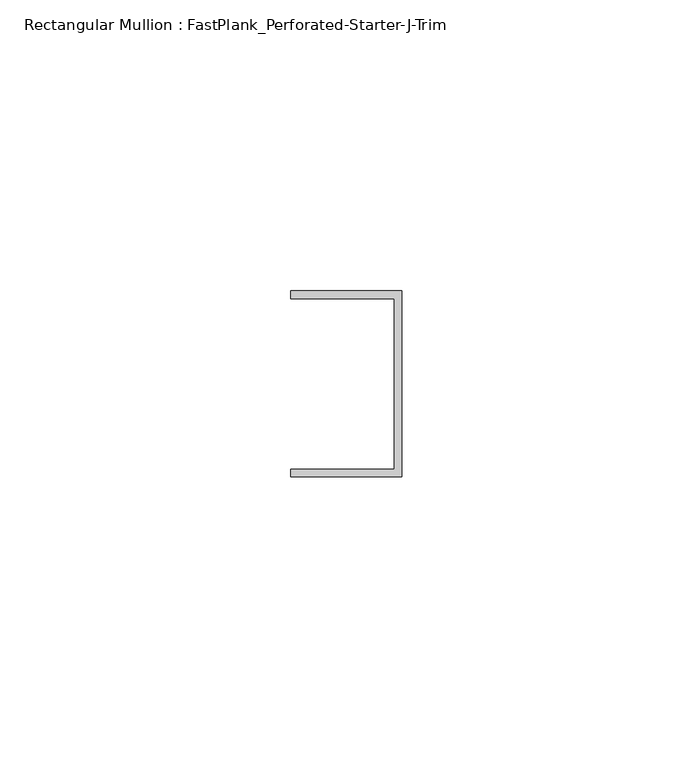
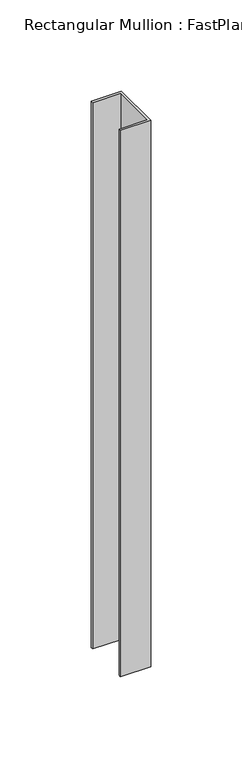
"""IFC4 building model written with IfcOpenShell, lengths in millimetres: member geometry, Rectangular Mullion : FastPlank_Perforated-Starter-J-Trim."""

import ifcopenshell
import ifcopenshell.guid

model = None  # the IFC model being written
_history = None  # IfcOwnerHistory: only IFC2X3 demands one
_inside = {}  # id of a spatial element -> (the spatial element, [elements in it])
_under = {}  # id of a project, library or spatial element -> (it, [spatial elements below it])
_declared = {}  # id of a project -> (the project, [libraries it declares])
_typed = {}  # id of a type object -> (the type object, [elements of that type])
_made_of = {}  # id of a material, layer set ... -> (it, [elements and type objects made of it])


def new_model(schema):
    """Start an empty IFC model of exactly this schema.

    Asked for "IFC4X3", IfcOpenShell would pick the latest addendum, in which some entities
    have other attributes; the version numbers below select the first issue.
    IFC2X3 requires an IfcOwnerHistory on every rooted entity: one is made here for all.
    """
    global model, _history
    if schema == "IFC4X3":
        model = ifcopenshell.file(schema_version=(4, 3, 0, 0))
    else:
        model = ifcopenshell.file(schema=schema)
    _inside.clear()
    _under.clear()
    _declared.clear()
    _typed.clear()
    _made_of.clear()
    _history = None
    if model.schema == "IFC2X3":
        org = make("IfcOrganization", Name="unknown")
        user = make(
            "IfcPersonAndOrganization",
            ThePerson=make("IfcPerson", FamilyName="unknown"),
            TheOrganization=org,
        )
        app = make(
            "IfcApplication",
            ApplicationDeveloper=org,
            Version="unknown",
            ApplicationFullName="unknown",
            ApplicationIdentifier="unknown",
        )
        _history = make(
            "IfcOwnerHistory",
            OwningUser=user,
            OwningApplication=app,
            ChangeAction="ADDED",
            CreationDate=0,
        )
    return model


def make(cls, **values):
    """One entity of the class cls with the attributes given. An attribute that is None is left unset."""
    return model.create_entity(
        cls, **{name: value for name, value in values.items() if value is not None}
    )


def rooted(cls, **values):
    """An entity with a GlobalId (a new one), such as an element, a storey or a relation."""
    return make(cls, GlobalId=ifcopenshell.guid.new(), OwnerHistory=_history, **values)


def si_unit(unit_type, name, prefix=None):
    """IfcSIUnit, for example si_unit("LENGTHUNIT", "METRE", prefix="MILLI")."""
    return make("IfcSIUnit", UnitType=unit_type, Prefix=prefix, Name=name)


def assignment(units):
    """IfcUnitAssignment: the units of a project."""
    return None if units is None else make("IfcUnitAssignment", Units=units)


def point(xyz):
    """IfcCartesianPoint."""
    return None if xyz is None else make("IfcCartesianPoint", Coordinates=xyz)


def direction(xyz):
    """IfcDirection."""
    return None if xyz is None else make("IfcDirection", DirectionRatios=xyz)


def frame(location, z_axis=None, x_axis=None):
    """IfcAxis2Placement3D, a coordinate frame: its origin and axes. An axis left out is left unset."""
    return make(
        "IfcAxis2Placement3D",
        Location=point(location),
        Axis=direction(z_axis),
        RefDirection=direction(x_axis),
    )


def origin():
    """The frame at (0, 0, 0) with its axes left unset."""
    return frame((0.0, 0.0, 0.0))


def place(relative_to, where):
    """IfcLocalPlacement: puts the frame where relative to a parent placement (None: the world)."""
    return make(
        "IfcLocalPlacement", PlacementRelTo=relative_to, RelativePlacement=where
    )


def context(
    kind, dimensions, precision=None, world=None, true_north=None, identifier=None
):
    """IfcGeometricRepresentationContext, for example the 3D "Model" context."""
    return make(
        "IfcGeometricRepresentationContext",
        ContextIdentifier=identifier,
        ContextType=kind,
        CoordinateSpaceDimension=dimensions,
        Precision=precision,
        WorldCoordinateSystem=world,
        TrueNorth=true_north,
    )


def project(units=None, contexts=None):
    """IfcProject with its units and contexts."""
    return rooted(
        "IfcProject",
        Name="project",
        RepresentationContexts=contexts,
        UnitsInContext=assignment(units),
    )


def spatial(cls, under=None, at=None, **own):
    """A site, building, storey or space (cls), placed at a placement, below another one or the project."""
    s = rooted(cls, ObjectPlacement=at, **own)
    if under is not None:
        _under.setdefault(under.id(), (under, []))[1].append(s)
    return s


def polyline(points):
    """IfcPolyline through the points."""
    return make("IfcPolyline", Points=[point(p) for p in points])


def outline(outer, holes=None, kind="AREA"):
    """IfcArbitraryClosedProfileDef: a profile drawn as a closed curve; with holes, ...WithVoids."""
    if holes is None:
        return make("IfcArbitraryClosedProfileDef", ProfileType=kind, OuterCurve=outer)
    return make(
        "IfcArbitraryProfileDefWithVoids",
        ProfileType=kind,
        OuterCurve=outer,
        InnerCurves=holes,
    )


def extrude(swept, where, along, depth):
    """IfcExtrudedAreaSolid: the profile swept, set in the frame where, extruded along a direction by depth."""
    return make(
        "IfcExtrudedAreaSolid",
        SweptArea=swept,
        Position=where,
        ExtrudedDirection=direction(along),
        Depth=depth,
    )


def shape(context_of_items, identifier, shape_type, items):
    """IfcShapeRepresentation: the items that make up one representation, for example the "Body"."""
    return make(
        "IfcShapeRepresentation",
        ContextOfItems=context_of_items,
        RepresentationIdentifier=identifier,
        RepresentationType=shape_type,
        Items=items,
    )


def source(mapping_origin, context_of_items, identifier, shape_type, items):
    """IfcRepresentationMap: a shape defined once, which mapped items show again and again."""
    return make(
        "IfcRepresentationMap",
        MappingOrigin=mapping_origin,
        MappedRepresentation=shape(context_of_items, identifier, shape_type, items),
    )


def transform(
    local_origin,
    x_axis=None,
    y_axis=None,
    z_axis=None,
    scale=None,
    scale2=None,
    scale3=None,
    uniform=True,
):
    """IfcCartesianTransformationOperator3D, or its non-uniform kind. x_axis, y_axis, z_axis: its Axis1, 2, 3."""
    if uniform:
        return make(
            "IfcCartesianTransformationOperator3D",
            Axis1=direction(x_axis),
            Axis2=direction(y_axis),
            LocalOrigin=point(local_origin),
            Scale=scale,
            Axis3=direction(z_axis),
        )
    return make(
        "IfcCartesianTransformationOperator3DnonUniform",
        Axis1=direction(x_axis),
        Axis2=direction(y_axis),
        LocalOrigin=point(local_origin),
        Scale=scale,
        Axis3=direction(z_axis),
        Scale2=scale2,
        Scale3=scale3,
    )


def mapped(mapping_source, mapping_target):
    """IfcMappedItem: shows the shape of a source again, moved by a transform."""
    return make(
        "IfcMappedItem", MappingSource=mapping_source, MappingTarget=mapping_target
    )


def made_of(thing, what):
    """Note that an element or type object is made of a material, layer set ...; save() writes the relation."""
    if what is not None:
        _made_of.setdefault(what.id(), (what, []))[1].append(thing)
    return thing


def element(
    cls,
    number,
    at=None,
    inside=None,
    cuts=None,
    type_object=None,
    material=None,
    context=None,
    identifier="Body",
    shape_type=None,
    held_by="IfcProductDefinitionShape",
    body=None,
    shapes=None,
    **own,
):
    """One element of the class cls, such as IfcWall. Its Tag is "e" and its number.

    at: its placement. inside: the storey or other place that contains it. cuts: it is an
    opening in that element (IfcRelVoidsElement). A single representation is given by context,
    identifier, shape_type and body (its items); several are given by shapes. held_by: the class
    of the entity that holds the representations. save() writes the other relations.
    """
    e = rooted(cls, Tag="e%d" % number, ObjectPlacement=at, **own)
    if body is not None:
        shapes = [shape(context, identifier, shape_type, body)]
    if shapes is not None:
        e.Representation = make(held_by, Representations=shapes)
    if inside is not None:
        _inside.setdefault(inside.id(), (inside, []))[1].append(e)
    if cuts is not None:
        rooted(
            "IfcRelVoidsElement", RelatingBuildingElement=cuts, RelatedOpeningElement=e
        )
    if type_object is not None:
        _typed.setdefault(type_object.id(), (type_object, []))[1].append(e)
    return made_of(e, material)


def aggregate(whole, parts):
    """IfcRelAggregates: a whole, such as a stair, and the parts it consists of."""
    return rooted("IfcRelAggregates", RelatingObject=whole, RelatedObjects=parts)


def save(model, path):
    """Write the relations noted so far, then the file.

    IfcRelAggregates (storeys below a building ...), IfcRelContainedInSpatialStructure (elements
    in a storey), IfcRelDefinesByType, IfcRelAssociatesMaterial and IfcRelDeclares: one each for
    every whole, place, type object, material and project.
    """
    for whole, parts in _under.values():
        aggregate(whole, parts)
    for where, things in _inside.values():
        rooted(
            "IfcRelContainedInSpatialStructure",
            RelatedElements=things,
            RelatingStructure=where,
        )
    for kind, things in _typed.values():
        rooted("IfcRelDefinesByType", RelatedObjects=things, RelatingType=kind)
    for what, things in _made_of.values():
        rooted("IfcRelAssociatesMaterial", RelatedObjects=things, RelatingMaterial=what)
    for by, libraries in _declared.values():
        rooted("IfcRelDeclares", RelatingContext=by, RelatedDefinitions=libraries)
    model.write(path)


def rectangular_mullion_fastplank_perforated_starter_j_trim_60d219b5(model_context):
    return source(origin(), model_context, "Body", "SweptSolid", [
        extrude(outline(polyline([(0.0, -10.2620691), (-19.05, -10.2620691), (-19.05, -8.9620717), (-1.3000189, -8.9620717), (-1.3000189, 20.3412717), (-19.05, 20.3412717), (-19.05, 21.6412691), (0.0, 21.6412691), (0.0, -10.2620691)])), frame((0.0, 0.0, -365.1156655), z_axis=(0.0, 0.0, 1.0), x_axis=(1.0, 0.0, 0.0)), (0.0, 0.0, 1.0), 365.1156655),
    ])


if __name__ == "__main__":
    model = new_model("IFC4")
    model_context = context("Model", 3, world=origin())
    ifc_project = project(units=[si_unit("LENGTHUNIT", "METRE", prefix="MILLI")], contexts=[model_context])
    site = spatial("IfcSite", under=ifc_project)
    building = spatial("IfcBuilding", under=site)
    placement = place(None, origin())
    rectangular_mullion_fastplank_perforated_starter_j_trim_shape = rectangular_mullion_fastplank_perforated_starter_j_trim_60d219b5(model_context)
    element("IfcMember", 1, ObjectType="Rectangular Mullion : FastPlank_Perforated-Starter-J-Trim", at=placement, inside=building, context=model_context, shape_type="MappedRepresentation", body=[
        mapped(rectangular_mullion_fastplank_perforated_starter_j_trim_shape, transform((0.0, 0.0, 0.0), x_axis=(1.0, 0.0, 0.0), y_axis=(0.0, 1.0, 0.0), z_axis=(0.0, 0.0, 1.0))),
    ])
    save(model, "model.ifc")
